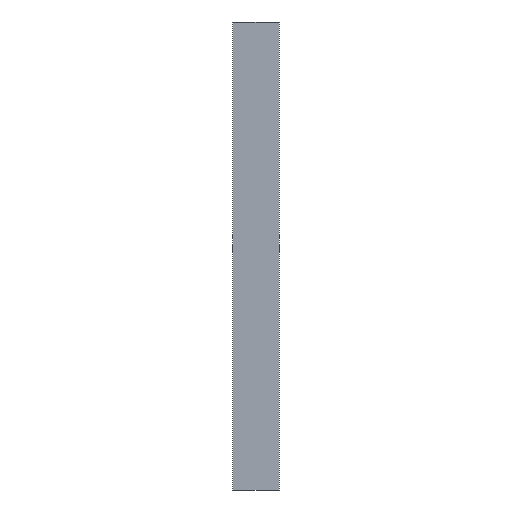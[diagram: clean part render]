
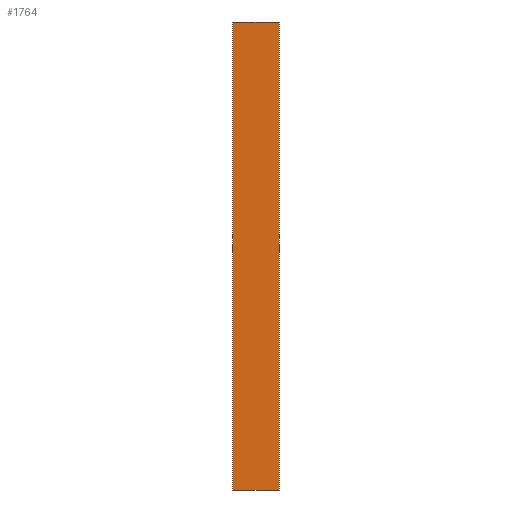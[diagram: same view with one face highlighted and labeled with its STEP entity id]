
A CAD part, front view. The second image highlights one B-rep face of the part: STEP entity #1764.
In plain terms, the highlighted planar face has unit normal (0, -1, 0).
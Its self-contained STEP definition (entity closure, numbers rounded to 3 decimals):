
#136=ORIENTED_EDGE('',*,*,#675,.F.);
#137=ORIENTED_EDGE('',*,*,#674,.F.);
#138=ORIENTED_EDGE('',*,*,#676,.T.);
#139=ORIENTED_EDGE('',*,*,#677,.T.);
#674=EDGE_CURVE('',#943,#942,#1122,.T.);
#675=EDGE_CURVE('',#942,#944,#1123,.T.);
#676=EDGE_CURVE('',#943,#945,#1124,.T.);
#677=EDGE_CURVE('',#945,#944,#1125,.T.);
#942=VERTEX_POINT('',#2571);
#943=VERTEX_POINT('',#2573);
#944=VERTEX_POINT('',#2577);
#945=VERTEX_POINT('',#2579);
#1122=LINE('',#2574,#1320);
#1123=LINE('',#2576,#1321);
#1124=LINE('',#2578,#1322);
#1125=LINE('',#2580,#1323);
#1320=VECTOR('',#2045,1000.);
#1321=VECTOR('',#2048,1000.);
#1322=VECTOR('',#2049,1000.);
#1323=VECTOR('',#2050,1000.);
#1516=EDGE_LOOP('',(#136,#137,#138,#139));
#1612=FACE_BOUND('',#1516,.T.);
#1707=PLANE('',#1871);
#1764=ADVANCED_FACE('',(#1612),#1707,.T.);
#1871=AXIS2_PLACEMENT_3D('',#2575,#2046,#2047);
#2045=DIRECTION('',(0.,0.,1.));
#2046=DIRECTION('',(0.,-1.,0.));
#2047=DIRECTION('',(0.,0.,-1.));
#2048=DIRECTION('',(1.,0.,0.));
#2049=DIRECTION('',(1.,0.,0.));
#2050=DIRECTION('',(0.,0.,1.));
#2571=CARTESIAN_POINT('',(-59.757,0.,0.));
#2573=CARTESIAN_POINT('',(-59.757,0.,-1200.));
#2574=CARTESIAN_POINT('',(-59.757,0.,-1200.));
#2575=CARTESIAN_POINT('',(-59.757,0.,-1200.));
#2576=CARTESIAN_POINT('',(-59.757,0.,0.));
#2577=CARTESIAN_POINT('',(59.757,0.,0.));
#2578=CARTESIAN_POINT('',(-59.757,0.,-1200.));
#2579=CARTESIAN_POINT('',(59.757,0.,-1200.));
#2580=CARTESIAN_POINT('',(59.757,0.,-1200.));
